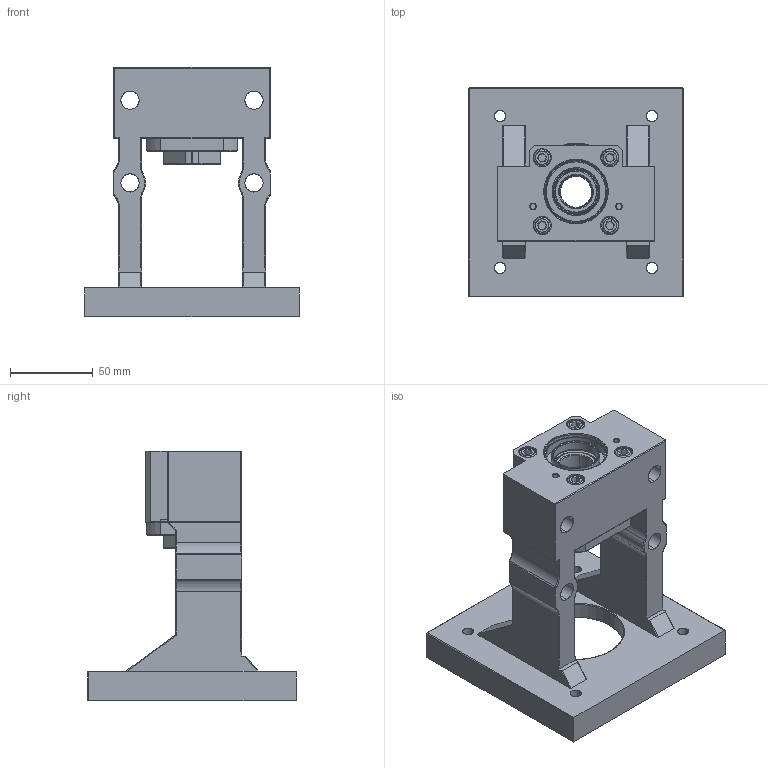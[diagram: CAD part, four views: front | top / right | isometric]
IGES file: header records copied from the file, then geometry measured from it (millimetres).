
Start section: SolidWorks IGES file using analytic representation for surfaces
Global section: file name: C:\Users\117\Desktop\1061208網站3D圖檔問題處理\傳動座\整合型\MBCS(F)\MBCF20\MBCF20-S.IGS,15HSolidWorks; native system: 2017; preprocessor: SolidWorks 2017; author: 117; date: 171228.152817; units: millimetre
Bounding box: 130 x 126 x 151 mm (x, y, z)
Surface area: 105982.5 mm2 (no closed solid volume)
Topology: 0 solids, 0 shells, 384 faces, 5748 edges, 5738 vertices
Faces by surface type: revolution 209, bspline 175
